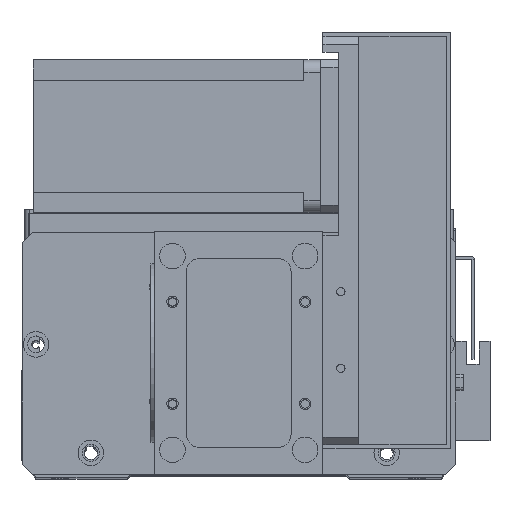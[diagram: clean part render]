
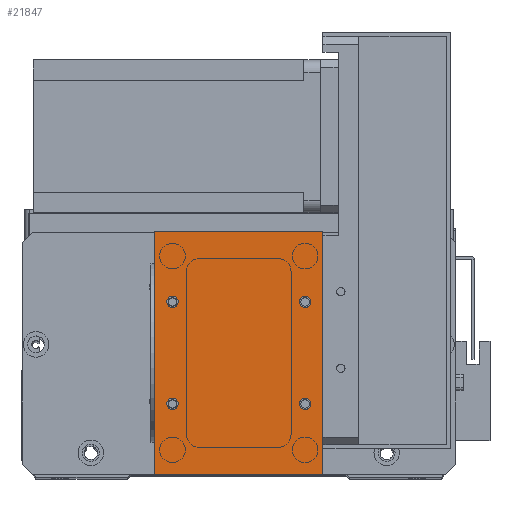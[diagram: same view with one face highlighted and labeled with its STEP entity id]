
A CAD part, top view. The second image highlights one B-rep face of the part: STEP entity #21847.
In plain terms, the highlighted planar face has unit normal (0, 0, 1).
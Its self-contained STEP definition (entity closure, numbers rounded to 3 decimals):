
#316 = VERTEX_POINT ( 'NONE', #8242 ) ;
#473 = VERTEX_POINT ( 'NONE', #14751 ) ;
#511 = CARTESIAN_POINT ( 'NONE',  ( 9.25, 27.5, 2. ) ) ;
#773 = ORIENTED_EDGE ( 'NONE', *, *, #11723, .T. ) ;
#774 = CARTESIAN_POINT ( 'NONE',  ( 0., 0., 2. ) ) ;
#930 = DIRECTION ( 'NONE',  ( 0., 0., 1. ) ) ;
#1047 = FACE_BOUND ( 'NONE', #9026, .T. ) ;
#1178 = EDGE_CURVE ( 'NONE', #10363, #9378, #20569, .T. ) ;
#2306 = ORIENTED_EDGE ( 'NONE', *, *, #20603, .F. ) ;
#4272 = AXIS2_PLACEMENT_3D ( 'NONE', #22131, #7870, #24501 ) ;
#4386 = DIRECTION ( 'NONE',  ( 0., 0., -1. ) ) ;
#5031 = VECTOR ( 'NONE', #10347, 1000. ) ;
#5522 = AXIS2_PLACEMENT_3D ( 'NONE', #8459, #25093, #10880 ) ;
#5826 = DIRECTION ( 'NONE',  ( 0., 0., 1. ) ) ;
#6381 = VECTOR ( 'NONE', #26430, 1000. ) ;
#6748 = LINE ( 'NONE', #29974, #24990 ) ;
#6846 = VERTEX_POINT ( 'NONE', #8400 ) ;
#6970 = EDGE_LOOP ( 'NONE', ( #17221, #2306 ) ) ;
#6972 = CARTESIAN_POINT ( 'NONE',  ( 59., 67.5, 2. ) ) ;
#7091 = CARTESIAN_POINT ( 'NONE',  ( 59., 27.5, 2. ) ) ;
#7141 = LINE ( 'NONE', #24066, #6381 ) ;
#7145 = CIRCLE ( 'NONE', #30053, 2.25 ) ;
#7333 = CARTESIAN_POINT ( 'NONE',  ( 7., 27.5, 2. ) ) ;
#7447 = CIRCLE ( 'NONE', #28770, 2.25 ) ;
#7678 = ORIENTED_EDGE ( 'NONE', *, *, #25611, .T. ) ;
#7870 = DIRECTION ( 'NONE',  ( 0., 0., 1. ) ) ;
#8242 = CARTESIAN_POINT ( 'NONE',  ( 56.75, 27.5, 2. ) ) ;
#8400 = CARTESIAN_POINT ( 'NONE',  ( 0., 95., 2. ) ) ;
#8459 = CARTESIAN_POINT ( 'NONE',  ( 59., 27.5, 2. ) ) ;
#9026 = EDGE_LOOP ( 'NONE', ( #30093, #16795 ) ) ;
#9182 = CARTESIAN_POINT ( 'NONE',  ( 4.75, 27.5, 2. ) ) ;
#9378 = VERTEX_POINT ( 'NONE', #511 ) ;
#9388 = DIRECTION ( 'NONE',  ( 1., 0., 0. ) ) ;
#9484 = DIRECTION ( 'NONE',  ( 1., 0., 0. ) ) ;
#9734 = DIRECTION ( 'NONE',  ( 1., 0., 0. ) ) ;
#9808 = LINE ( 'NONE', #28586, #27271 ) ;
#9845 = CARTESIAN_POINT ( 'NONE',  ( 66., 0., 2. ) ) ;
#10347 = DIRECTION ( 'NONE',  ( 1., 0., 0. ) ) ;
#10363 = VERTEX_POINT ( 'NONE', #9182 ) ;
#10606 = DIRECTION ( 'NONE',  ( 1., 0., 0. ) ) ;
#10880 = DIRECTION ( 'NONE',  ( 1., 0., 0. ) ) ;
#10982 = EDGE_CURVE ( 'NONE', #6846, #28827, #9808, .T. ) ;
#11685 = EDGE_CURVE ( 'NONE', #9378, #10363, #26099, .T. ) ;
#11723 = EDGE_CURVE ( 'NONE', #19126, #21545, #7141, .T. ) ;
#12166 = EDGE_LOOP ( 'NONE', ( #30298, #28200 ) ) ;
#12194 = CIRCLE ( 'NONE', #4272, 2.25 ) ;
#12307 = FACE_OUTER_BOUND ( 'NONE', #17378, .T. ) ;
#13044 = FACE_BOUND ( 'NONE', #19220, .T. ) ;
#13647 = EDGE_CURVE ( 'NONE', #316, #26384, #7447, .T. ) ;
#13924 = CARTESIAN_POINT ( 'NONE',  ( 0., 0., 2. ) ) ;
#14182 = CARTESIAN_POINT ( 'NONE',  ( 7., 27.5, 2. ) ) ;
#14344 = CARTESIAN_POINT ( 'NONE',  ( 9.25, 67.5, 2. ) ) ;
#14384 = ORIENTED_EDGE ( 'NONE', *, *, #10982, .T. ) ;
#14432 = ORIENTED_EDGE ( 'NONE', *, *, #11685, .F. ) ;
#14751 = CARTESIAN_POINT ( 'NONE',  ( 4.75, 67.5, 2. ) ) ;
#15018 = CARTESIAN_POINT ( 'NONE',  ( 66., 95., 2. ) ) ;
#15319 = CARTESIAN_POINT ( 'NONE',  ( 7., 67.5, 2. ) ) ;
#15602 = AXIS2_PLACEMENT_3D ( 'NONE', #15319, #930, #17710 ) ;
#15704 = EDGE_CURVE ( 'NONE', #28523, #473, #12194, .T. ) ;
#15999 = ORIENTED_EDGE ( 'NONE', *, *, #16316, .T. ) ;
#16263 = LINE ( 'NONE', #774, #5031 ) ;
#16316 = EDGE_CURVE ( 'NONE', #28827, #19126, #16263, .T. ) ;
#16750 = DIRECTION ( 'NONE',  ( 0., -1., 0. ) ) ;
#16795 = ORIENTED_EDGE ( 'NONE', *, *, #29816, .F. ) ;
#17221 = ORIENTED_EDGE ( 'NONE', *, *, #28997, .F. ) ;
#17378 = EDGE_LOOP ( 'NONE', ( #14384, #15999, #773, #7678 ) ) ;
#17440 = DIRECTION ( 'NONE',  ( 0., 0., 1. ) ) ;
#17710 = DIRECTION ( 'NONE',  ( 1., 0., 0. ) ) ;
#18180 = CIRCLE ( 'NONE', #25878, 2.25 ) ;
#18642 = FACE_BOUND ( 'NONE', #6970, .T. ) ;
#19126 = VERTEX_POINT ( 'NONE', #9845 ) ;
#19220 = EDGE_LOOP ( 'NONE', ( #14432, #21282 ) ) ;
#19326 = VERTEX_POINT ( 'NONE', #27277 ) ;
#20162 = CARTESIAN_POINT ( 'NONE',  ( 59., 67.5, 2. ) ) ;
#20542 = DIRECTION ( 'NONE',  ( -1., 0., 0. ) ) ;
#20569 = CIRCLE ( 'NONE', #28982, 2.25 ) ;
#20603 = EDGE_CURVE ( 'NONE', #24242, #19326, #7145, .T. ) ;
#20659 = EDGE_CURVE ( 'NONE', #26384, #316, #30213, .T. ) ;
#21110 = DIRECTION ( 'NONE',  ( -1., 0., 0. ) ) ;
#21282 = ORIENTED_EDGE ( 'NONE', *, *, #1178, .F. ) ;
#21545 = VERTEX_POINT ( 'NONE', #15018 ) ;
#21847 = ADVANCED_FACE ( 'NONE', ( #1047, #18642, #24940, #13044, #12307 ), #28124, .F. ) ;
#22131 = CARTESIAN_POINT ( 'NONE',  ( 7., 67.5, 2. ) ) ;
#22495 = DIRECTION ( 'NONE',  ( 1., 0., 0. ) ) ;
#23622 = DIRECTION ( 'NONE',  ( 0., 0., 1. ) ) ;
#23722 = DIRECTION ( 'NONE',  ( 0., 0., 1. ) ) ;
#23966 = DIRECTION ( 'NONE',  ( 0., 0., 1. ) ) ;
#24066 = CARTESIAN_POINT ( 'NONE',  ( 66., 0., 2. ) ) ;
#24242 = VERTEX_POINT ( 'NONE', #26897 ) ;
#24501 = DIRECTION ( 'NONE',  ( 1., 0., 0. ) ) ;
#24940 = FACE_BOUND ( 'NONE', #12166, .T. ) ;
#24990 = VECTOR ( 'NONE', #20542, 1000. ) ;
#25093 = DIRECTION ( 'NONE',  ( 0., 0., 1. ) ) ;
#25611 = EDGE_CURVE ( 'NONE', #21545, #6846, #6748, .T. ) ;
#25840 = AXIS2_PLACEMENT_3D ( 'NONE', #7333, #23966, #9734 ) ;
#25878 = AXIS2_PLACEMENT_3D ( 'NONE', #6972, #23622, #9388 ) ;
#26099 = CIRCLE ( 'NONE', #25840, 2.25 ) ;
#26384 = VERTEX_POINT ( 'NONE', #29930 ) ;
#26430 = DIRECTION ( 'NONE',  ( 0., 1., 0. ) ) ;
#26897 = CARTESIAN_POINT ( 'NONE',  ( 56.75, 67.5, 2. ) ) ;
#27068 = AXIS2_PLACEMENT_3D ( 'NONE', #13924, #4386, #21110 ) ;
#27271 = VECTOR ( 'NONE', #16750, 1000. ) ;
#27277 = CARTESIAN_POINT ( 'NONE',  ( 61.25, 67.5, 2. ) ) ;
#28124 = PLANE ( 'NONE',  #27068 ) ;
#28200 = ORIENTED_EDGE ( 'NONE', *, *, #13647, .F. ) ;
#28523 = VERTEX_POINT ( 'NONE', #14344 ) ;
#28586 = CARTESIAN_POINT ( 'NONE',  ( 0., 0., 2. ) ) ;
#28770 = AXIS2_PLACEMENT_3D ( 'NONE', #7091, #23722, #9484 ) ;
#28827 = VERTEX_POINT ( 'NONE', #30078 ) ;
#28982 = AXIS2_PLACEMENT_3D ( 'NONE', #14182, #17440, #10606 ) ;
#28997 = EDGE_CURVE ( 'NONE', #19326, #24242, #18180, .T. ) ;
#29631 = CIRCLE ( 'NONE', #15602, 2.25 ) ;
#29816 = EDGE_CURVE ( 'NONE', #473, #28523, #29631, .T. ) ;
#29930 = CARTESIAN_POINT ( 'NONE',  ( 61.25, 27.5, 2. ) ) ;
#29974 = CARTESIAN_POINT ( 'NONE',  ( 0., 95., 2. ) ) ;
#30053 = AXIS2_PLACEMENT_3D ( 'NONE', #20162, #5826, #22495 ) ;
#30078 = CARTESIAN_POINT ( 'NONE',  ( 0., 0., 2. ) ) ;
#30093 = ORIENTED_EDGE ( 'NONE', *, *, #15704, .F. ) ;
#30213 = CIRCLE ( 'NONE', #5522, 2.25 ) ;
#30298 = ORIENTED_EDGE ( 'NONE', *, *, #20659, .F. ) ;
